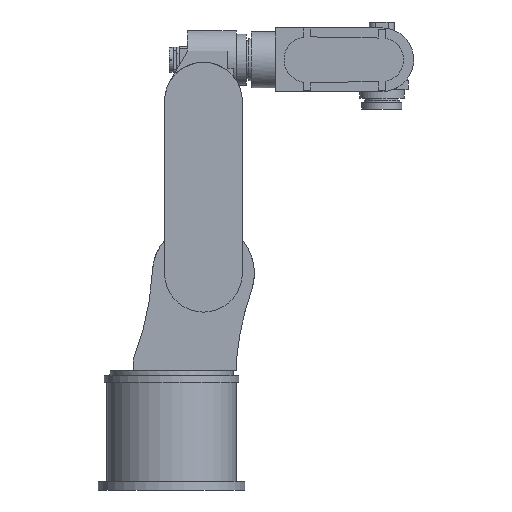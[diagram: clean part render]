
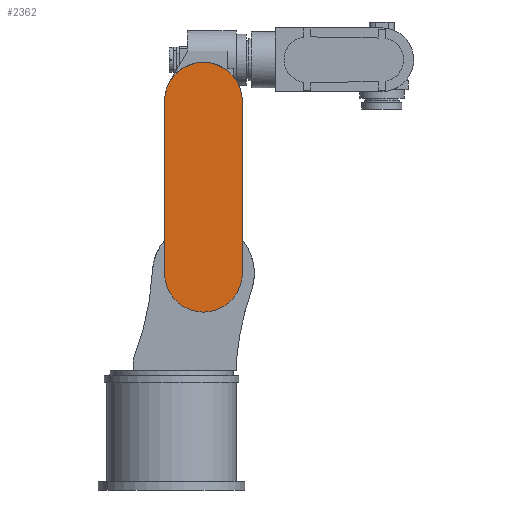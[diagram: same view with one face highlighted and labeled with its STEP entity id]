
A CAD part, front view. The second image highlights one B-rep face of the part: STEP entity #2362.
In plain terms, the highlighted planar face has unit normal (0, -1, 0).
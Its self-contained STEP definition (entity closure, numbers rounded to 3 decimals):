
#2296 = VERTEX_POINT('',#2297);
#2297 = CARTESIAN_POINT('',(-11.,-117.,165.));
#2303 = EDGE_CURVE('',#2296,#2304,#2306,.T.);
#2304 = VERTEX_POINT('',#2305);
#2305 = CARTESIAN_POINT('',(-11.,-117.,435.));
#2306 = LINE('',#2307,#2308);
#2307 = CARTESIAN_POINT('',(-11.,-117.,165.));
#2308 = VECTOR('',#2309,1.);
#2309 = DIRECTION('',(0.,0.,1.));
#2336 = VERTEX_POINT('',#2337);
#2337 = CARTESIAN_POINT('',(111.,-117.,165.));
#2343 = EDGE_CURVE('',#2336,#2296,#2344,.T.);
#2344 = CIRCLE('',#2345,61.);
#2345 = AXIS2_PLACEMENT_3D('',#2346,#2347,#2348);
#2346 = CARTESIAN_POINT('',(50.,-117.,165.));
#2347 = DIRECTION('',(0.,1.,0.));
#2348 = DIRECTION('',(1.,0.,0.));
#2362 = ADVANCED_FACE('',(#2363),#2382,.F.);
#2363 = FACE_BOUND('',#2364,.F.);
#2364 = EDGE_LOOP('',(#2365,#2366,#2375,#2381));
#2365 = ORIENTED_EDGE('',*,*,#2303,.T.);
#2366 = ORIENTED_EDGE('',*,*,#2367,.T.);
#2367 = EDGE_CURVE('',#2304,#2368,#2370,.T.);
#2368 = VERTEX_POINT('',#2369);
#2369 = CARTESIAN_POINT('',(111.,-117.,435.));
#2370 = CIRCLE('',#2371,61.);
#2371 = AXIS2_PLACEMENT_3D('',#2372,#2373,#2374);
#2372 = CARTESIAN_POINT('',(50.,-117.,435.));
#2373 = DIRECTION('',(0.,1.,-0.));
#2374 = DIRECTION('',(-1.,0.,0.));
#2375 = ORIENTED_EDGE('',*,*,#2376,.T.);
#2376 = EDGE_CURVE('',#2368,#2336,#2377,.T.);
#2377 = LINE('',#2378,#2379);
#2378 = CARTESIAN_POINT('',(111.,-117.,435.));
#2379 = VECTOR('',#2380,1.);
#2380 = DIRECTION('',(0.,-0.,-1.));
#2381 = ORIENTED_EDGE('',*,*,#2343,.T.);
#2382 = PLANE('',#2383);
#2383 = AXIS2_PLACEMENT_3D('',#2384,#2385,#2386);
#2384 = CARTESIAN_POINT('',(50.,-117.,300.));
#2385 = DIRECTION('',(0.,1.,0.));
#2386 = DIRECTION('',(0.,-0.,1.));
